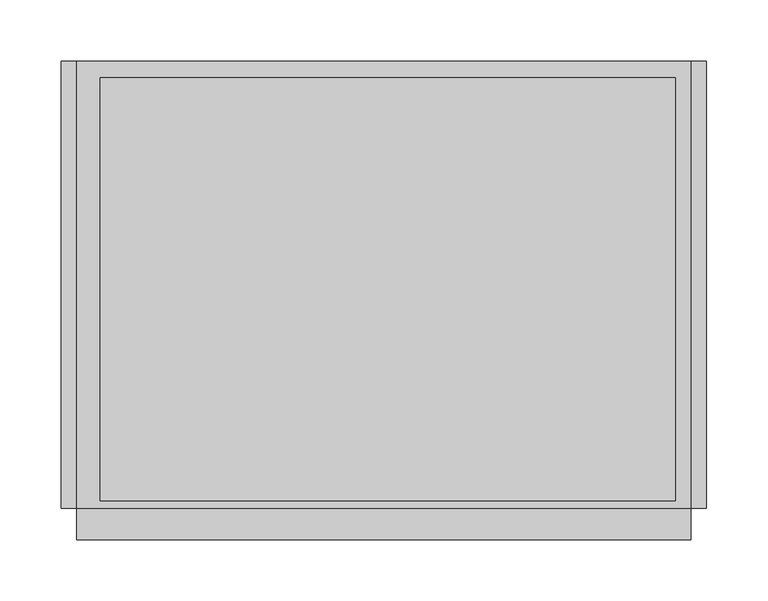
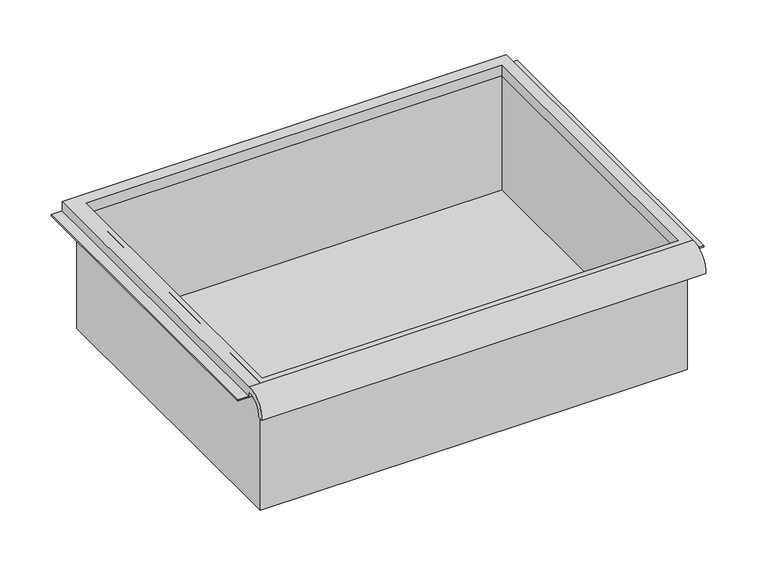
"""IFC4 building model written with IfcOpenShell, lengths in millimetres: furniture geometry."""

from ifc_helpers import new_model, si_unit, frame, origin, place, context, project, spatial, polyline, circle_curve, faceted_brep, source, transform, mapped, element, save
from ifc_brep_helpers import plane_surface, cylinder_surface, revolved_surface, advanced_brep


def furniture_41c99ade(model_context):
    return source(origin(), model_context, "Body", "SolidModel", [
        advanced_brep(
        [(263.7474999, -195.297482, 1694.6510272), (263.7474999, -188.9125, 1694.6510272), (263.7474999, -169.8625, 1712.9125004), (263.7474999, -169.8625, 1706.5625), (263.7474999, 195.2625, 1706.5625), (263.7474999, 195.2625, 1719.2625004), (263.7474999, -169.8625, 1719.2625004), (-237.9025001, -195.297482, 1694.6510272), (-237.9025001, -169.8625, 1719.2625004), (-237.9025001, 195.2625, 1719.2625004), (-237.9025001, 195.2625, 1706.5625), (-237.9025001, -169.8625, 1706.5625), (-237.9025001, -169.8625, 1712.9125004), (-237.9025001, -188.9125, 1694.6510272), (251.0474878, 181.9275, 1706.5625), (-218.8095642, 181.9275, 1706.5625), (-218.8095642, -163.5125, 1706.5625), (251.0474878, -163.5125, 1706.5625), (-218.8095642, 181.9275, 1719.2625004), (251.0474878, 181.9275, 1719.2625004), (251.0474878, -163.5125, 1719.2625004), (-218.8095642, -163.5125, 1719.2625004)],
        [
            (0, 1),
            (1, 2, circle_curve(frame((263.7474999, -172.3404634, 1696.4304376), z_axis=(-1.0, 0.0, 0.0), x_axis=(0.0, 1.0, 0.0)), 16.6672942)),
            (2, 3),
            (3, 4),
            (4, 5),
            (5, 6),
            (6, 0, circle_curve(frame((263.7474999, -172.4601678, 1696.4983276), z_axis=(1.0, 0.0, 0.0), x_axis=(0.0, 1.0, 0.0)), 22.9119061)),
            (7, 8, circle_curve(frame((-237.9025001, -172.4601678, 1696.4983276), z_axis=(-1.0, 0.0, 0.0), x_axis=(0.0, 1.0, 0.0)), 22.9119061)),
            (8, 9),
            (9, 10),
            (10, 11),
            (11, 12),
            (12, 13, circle_curve(frame((-237.9025001, -172.3404634, 1696.4304376), z_axis=(1.0, 0.0, 0.0), x_axis=(0.0, 1.0, 0.0)), 16.6672942)),
            (13, 7),
            (0, 7),
            (13, 1),
            (12, 2),
            (11, 3),
            (10, 4),
            (14, 15),
            (15, 16),
            (16, 17),
            (17, 14),
            (9, 5),
            (8, 6),
            (18, 19),
            (19, 20),
            (20, 21),
            (21, 18),
            (14, 19),
            (18, 15),
            (21, 16),
            (20, 17),
        ],
        [
            plane_surface(frame((263.7474999, -195.297482, 1694.6510272), z_axis=(1.0, 0.0, 0.0), x_axis=(0.0, 1.0, 0.0))),
            plane_surface(frame((-237.9025001, -195.297482, 1694.6510272), z_axis=(-1.0, 0.0, 0.0), x_axis=(0.0, -1.0, 0.0))),
            plane_surface(frame((263.7474999, -195.297482, 1694.6510272), z_axis=(0.0, 0.0, -1.0), x_axis=(-1.0, 0.0, 0.0))),
            revolved_surface(polyline([(-237.9025001, -155.67316920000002, 1696.4304376), (263.7474999, -155.67316920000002, 1696.4304376)]), (-237.9025001, -172.3404634, 1696.4304376), (-1.0, 0.0, 0.0)),
            plane_surface(frame((263.7474999, -169.8625, 1712.9125004), z_axis=(0.0, -1.0, 0.0), x_axis=(-1.0, 0.0, 0.0))),
            plane_surface(frame((263.7474999, -169.8625, 1706.5625), z_axis=(0.0, 0.0, -1.0), x_axis=(-1.0, 0.0, 0.0))),
            plane_surface(frame((263.7474999, 195.2625, 1706.5625), z_axis=(0.0, 1.0, 0.0), x_axis=(-1.0, 0.0, 0.0))),
            plane_surface(frame((263.7474999, 195.2625, 1719.2625004), z_axis=(0.0, 0.0, 1.0), x_axis=(-1.0, 0.0, 0.0))),
            cylinder_surface(frame((-237.9025001, -172.4601678, 1696.4983276), z_axis=(1.0, 0.0, 0.0), x_axis=(0.0, 1.0, 0.0)), 22.9119061),
            plane_surface(frame((251.0474878, 181.9275, 1719.2625004), z_axis=(0.0, -1.0, 0.0), x_axis=(0.0, 0.0, -1.0))),
            plane_surface(frame((-218.8095642, 181.9275, 1719.2625004), z_axis=(1.0, 0.0, 0.0), x_axis=(0.0, 0.0, -1.0))),
            plane_surface(frame((-218.8095642, -163.5125, 1719.2625004), z_axis=(0.0, 1.0, 0.0), x_axis=(0.0, 0.0, -1.0))),
            plane_surface(frame((251.0474878, -163.5125, 1719.2625004), z_axis=(-1.0, 0.0, 0.0), x_axis=(0.0, 0.0, -1.0))),
        ],
        [
            (0, [[1, 2, 3, 4, 5, 6, 7]]),
            (1, [[8, 9, 10, 11, 12, 13, 14]]),
            (2, [[-1, 15, -14, 16]]),
            (3, [[-2, -16, -13, 17]]),
            (4, [[-3, -17, -12, 18]]),
            (5, [[-4, -18, -11, 19], [20, 21, 22, 23]]),
            (6, [[-5, -19, -10, 24]]),
            (7, [[-6, -24, -9, 25], [26, 27, 28, 29]]),
            (8, [[-7, -25, -8, -15]]),
            (9, [[30, -26, 31, -20]]),
            (10, [[-31, -29, 32, -21]]),
            (11, [[-32, -28, 33, -22]]),
            (12, [[-30, -23, -33, -27]]),
        ],
    ),
        faceted_brep([(-225.2025001, -169.8625, 1566.8625004), (257.3974878, -169.8625, 1566.8625004), (257.3974878, -169.8625, 1719.2625004), (-225.2025001, -169.8625, 1719.2625004), (-225.2025001, 188.9125, 1566.8625004), (-225.2025001, 188.9125, 1719.2625004), (257.3974878, 188.9125, 1719.2625004), (257.3974878, 188.9125, 1566.8625004), (-218.8095642, 181.9275, 1719.2625004), (251.0474878, 181.9275, 1719.2625004), (251.0474878, -163.5125, 1719.2625004), (-218.8095642, -163.5125, 1719.2625004), (251.0474878, 181.9275, 1570.0375004), (-218.8095642, 181.9275, 1570.0375004), (-218.8095642, -163.5125, 1570.0375004), (251.0474878, -163.5125, 1570.0375004)], [[[0, 1, 2, 3]], [[4, 5, 6, 7]], [[1, 0, 4, 7]], [[2, 1, 7, 6]], [[3, 2, 6, 5], [8, 9, 10, 11]], [[0, 3, 5, 4]], [[12, 13, 14, 15]], [[13, 12, 9, 8]], [[14, 13, 8, 11]], [[15, 14, 11, 10]], [[12, 15, 10, 9]]]),
        faceted_brep([(-250.6025001, 195.2625, 1706.5625), (-250.6025001, 195.2625, 1708.15), (-231.5525001, 195.2625, 1708.15), (-231.5525001, 195.2625, 1706.5625), (-250.6025001, -169.8625, 1706.5625), (-231.5525001, -169.8625, 1706.5625), (-231.5525001, -169.8625, 1708.15), (-250.6025001, -169.8625, 1708.15)], [[[0, 1, 2, 3]], [[4, 5, 6, 7]], [[1, 0, 4, 7]], [[2, 1, 7, 6]], [[3, 2, 6, 5]], [[0, 3, 5, 4]]]),
        faceted_brep([(276.4474999, 195.2625, 1706.5625), (263.7474999, 195.2625, 1706.5625), (263.7474999, 195.2625, 1708.15), (276.4474999, 195.2625, 1708.15), (276.4474999, -169.8625, 1706.5625), (276.4474999, -169.8625, 1708.15), (263.7474999, -169.8625, 1708.15), (263.7474999, -169.8625, 1706.5625)], [[[0, 1, 2, 3]], [[4, 5, 6, 7]], [[1, 0, 4, 7]], [[2, 1, 7, 6]], [[3, 2, 6, 5]], [[0, 3, 5, 4]]]),
    ])


if __name__ == "__main__":
    model = new_model("IFC4")
    model_context = context("Model", 3, world=origin())
    ifc_project = project(units=[si_unit("LENGTHUNIT", "METRE", prefix="MILLI")], contexts=[model_context])
    site = spatial("IfcSite", under=ifc_project)
    building = spatial("IfcBuilding", under=site)
    placement = place(None, origin())
    furniture_shape = furniture_41c99ade(model_context)
    element("IfcFurniture", 1, ObjectType="HermanMiller_Carts_CT501_Drawer : 6\"H x 15\"D x 20\"W", at=placement, inside=building, context=model_context, shape_type="MappedRepresentation", body=[
        mapped(furniture_shape, transform((0.0, 0.0, 0.0), x_axis=(1.0, 0.0, 0.0), y_axis=(0.0, 1.0, 0.0), z_axis=(0.0, 0.0, 1.0))),
    ])
    save(model, "model.ifc")
